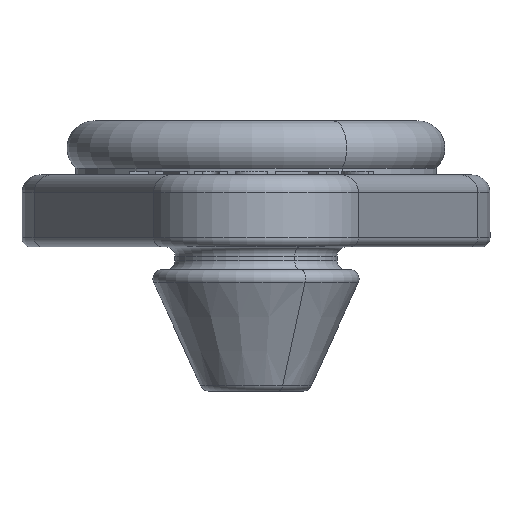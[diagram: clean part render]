
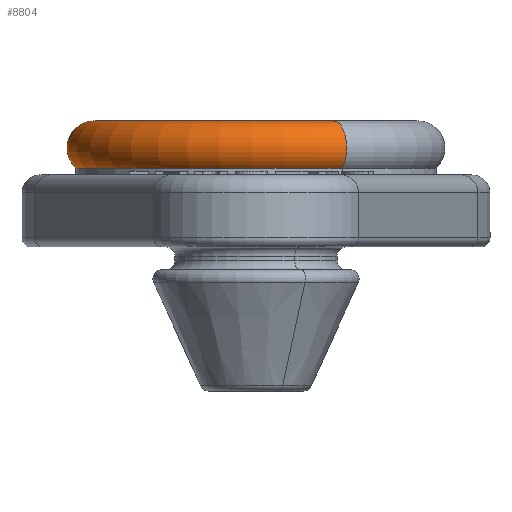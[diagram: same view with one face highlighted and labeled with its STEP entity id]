
A CAD part, left-side view. The second image highlights one B-rep face of the part: STEP entity #8804.
In plain terms, the highlighted toroidal (fillet/blend) face has major radius 9 mm and minor radius 1.5 mm.
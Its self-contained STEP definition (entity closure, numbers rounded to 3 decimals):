
#8607=CARTESIAN_POINT('Vertex',(-8.776,-4.794,4.382)) ;
#8610=CARTESIAN_POINT('Axis2P3D Location',(0.,0.,4.382)) ;
#8614=CARTESIAN_POINT('Vertex',(8.776,4.794,4.382)) ;
#8774=CARTESIAN_POINT('Axis2P3D Location',(0.,0.,5.5)) ;
#8779=CARTESIAN_POINT('Axis2P3D Location',(0.,0.,7.)) ;
#8783=CARTESIAN_POINT('Vertex',(7.898,4.315,7.)) ;
#8785=CARTESIAN_POINT('Vertex',(-7.898,-4.315,7.)) ;
#8788=CARTESIAN_POINT('Axis2P3D Location',(7.898,4.315,5.5)) ;
#8793=CARTESIAN_POINT('Axis2P3D Location',(-7.898,-4.315,5.5)) ;
#8611=DIRECTION('Axis2P3D Direction',(0.,0.,1.)) ;
#8775=DIRECTION('Axis2P3D Direction',(0.,0.,1.)) ;
#8776=DIRECTION('Axis2P3D XDirection',(0.878,0.479,0.)) ;
#8780=DIRECTION('Axis2P3D Direction',(0.,0.,1.)) ;
#8789=DIRECTION('Axis2P3D Direction',(0.479,-0.878,0.)) ;
#8794=DIRECTION('Axis2P3D Direction',(-0.479,0.878,0.)) ;
#8612=AXIS2_PLACEMENT_3D('Circle Axis2P3D',#8610,#8611,$) ;
#8777=AXIS2_PLACEMENT_3D('Torus Axis2P3D',#8774,#8775,#8776) ;
#8781=AXIS2_PLACEMENT_3D('Circle Axis2P3D',#8779,#8780,$) ;
#8790=AXIS2_PLACEMENT_3D('Circle Axis2P3D',#8788,#8789,$) ;
#8795=AXIS2_PLACEMENT_3D('Circle Axis2P3D',#8793,#8794,$) ;
#8799=ORIENTED_EDGE('',*,*,#8787,.F.) ;
#8800=ORIENTED_EDGE('',*,*,#8792,.T.) ;
#8801=ORIENTED_EDGE('',*,*,#8616,.T.) ;
#8802=ORIENTED_EDGE('',*,*,#8797,.F.) ;
#8804=ADVANCED_FACE('PartBody',(#8803),#8778,.T.) ;
#8613=CIRCLE('generated circle',#8612,10.) ;
#8782=CIRCLE('generated circle',#8781,9.) ;
#8791=CIRCLE('generated circle',#8790,1.5) ;
#8796=CIRCLE('generated circle',#8795,1.5) ;
#8778=TOROIDAL_SURFACE('homeo Torus',#8777,9.,1.5) ;
#8616=EDGE_CURVE('',#8615,#8608,#8613,.T.) ;
#8787=EDGE_CURVE('',#8784,#8786,#8782,.T.) ;
#8792=EDGE_CURVE('',#8784,#8615,#8791,.F.) ;
#8797=EDGE_CURVE('',#8786,#8608,#8796,.F.) ;
#8798=EDGE_LOOP('',(#8799,#8800,#8801,#8802)) ;
#8803=FACE_OUTER_BOUND('',#8798,.T.) ;
#8608=VERTEX_POINT('',#8607) ;
#8615=VERTEX_POINT('',#8614) ;
#8784=VERTEX_POINT('',#8783) ;
#8786=VERTEX_POINT('',#8785) ;
